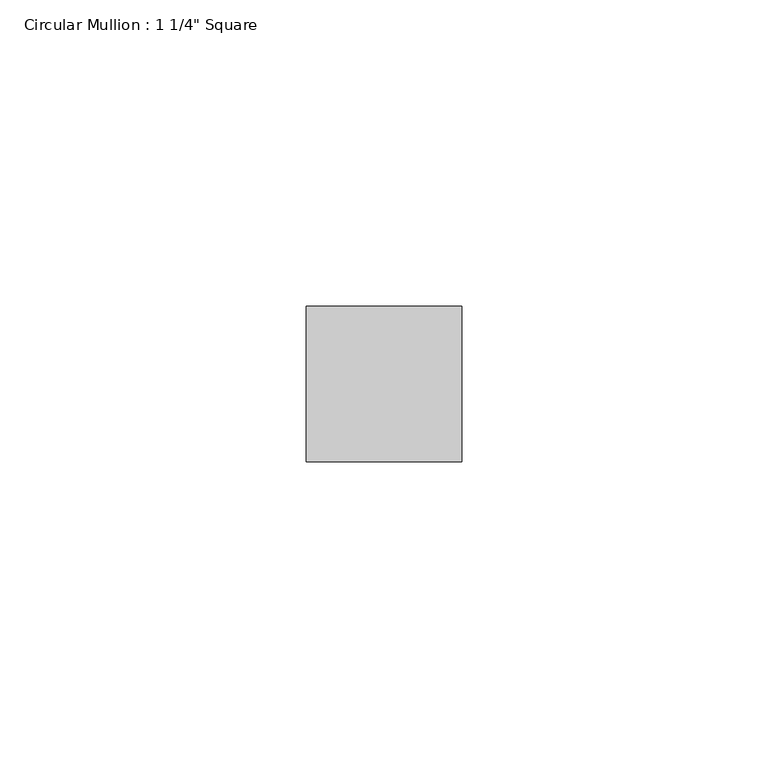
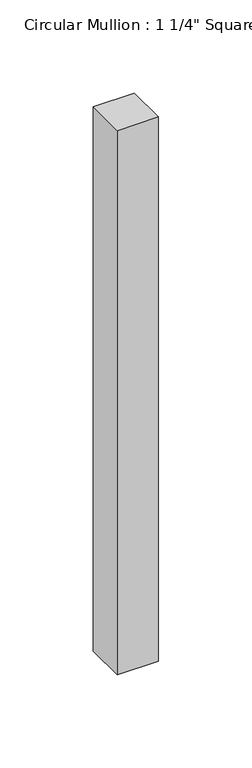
"""IFC4 building model written with IfcOpenShell, lengths in millimetres: member geometry."""

from ifc_helpers import new_model, si_unit, frame, origin, place, context, project, spatial, polyline, outline, extrude, source, transform, mapped, element, save


def member_643a3807(model_context):
    return source(origin(), model_context, "Body", "SweptSolid", [
        extrude(outline(polyline([(12.7, 12.7), (12.7, -12.7), (-12.7, -12.7), (-12.7, 12.7), (12.7, 12.7)])), frame((0.0, 0.0, -355.6), z_axis=(0.0, 0.0, 1.0), x_axis=(1.0, 0.0, 0.0)), (0.0, 0.0, 1.0), 355.6),
    ])


if __name__ == "__main__":
    model = new_model("IFC4")
    model_context = context("Model", 3, world=origin())
    ifc_project = project(units=[si_unit("LENGTHUNIT", "METRE", prefix="MILLI")], contexts=[model_context])
    site = spatial("IfcSite", under=ifc_project)
    building = spatial("IfcBuilding", under=site)
    placement = place(None, origin())
    member_shape = member_643a3807(model_context)
    element("IfcMember", 1, ObjectType="Circular Mullion : 1 1/4\" Square", at=placement, inside=building, context=model_context, shape_type="MappedRepresentation", body=[
        mapped(member_shape, transform((0.0, 0.0, 0.0), x_axis=(1.0, 0.0, 0.0), y_axis=(0.0, 1.0, 0.0), z_axis=(0.0, 0.0, 1.0))),
    ])
    save(model, "model.ifc")
